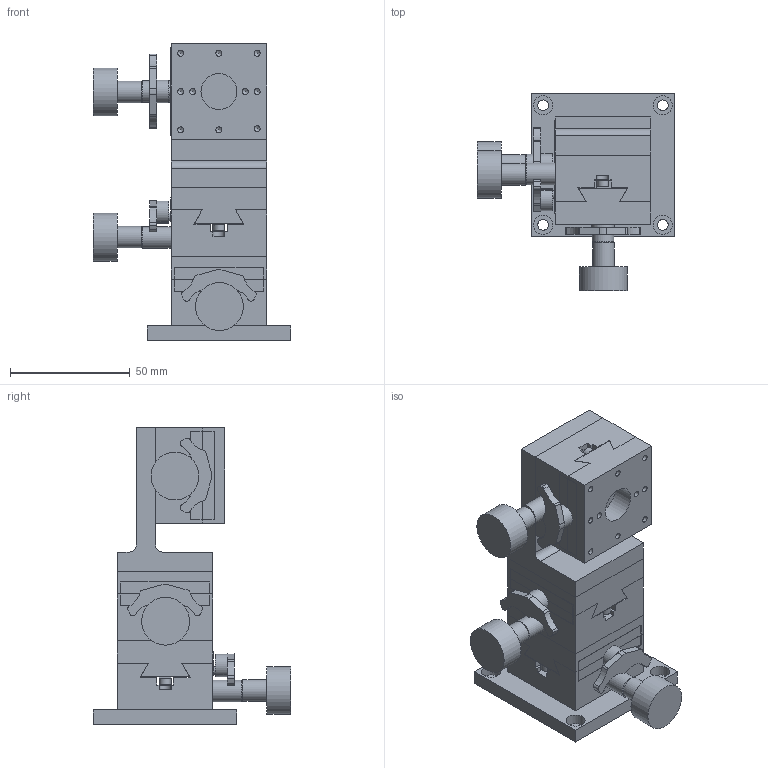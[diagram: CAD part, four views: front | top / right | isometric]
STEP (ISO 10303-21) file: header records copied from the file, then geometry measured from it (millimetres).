
FILE_DESCRIPTION( ( 'STEP AP214' ), '1' );
FILE_NAME( 'C:/Project/B05-7NHR.stp', '2007-05-08T10:30:51', ( ' ' ), ( ' ' ), 'XStep 1.0', ' ', ' ' );
FILE_SCHEMA( ( 'automotive_design' ) );
Length unit declared in the file: millimetre
Products named in the file (10): 1; 2; 3; 4; 5; 6; 7; 8; 9; 10
Bounding box: 82.5 x 82.5 x 124 mm (x, y, z)
Volume: 196931.8 mm3; surface area: 69034 mm2
Topology: 10 solids, 10 shells, 383 faces, 996 edges, 664 vertices
Faces by surface type: plane 229, cylinder 123, cone 31
Full cylindrical faces by diameter (mm): 2.5 x30, 3.242 x3, 4.5 x9, 4.7 x6, 7.2 x3, 8 x4, 8.2 x3, 9 x6, 15 x3, 20 x3
Entity records: 13869 total; most frequent: DIRECTION 1866, CARTESIAN_POINT 1821, ORIENTED_EDGE 1628, EDGE_CURVE 814, AXIS2_PLACEMENT_3D 659, VERTEX_POINT 614, LINE 548, VECTOR 548
